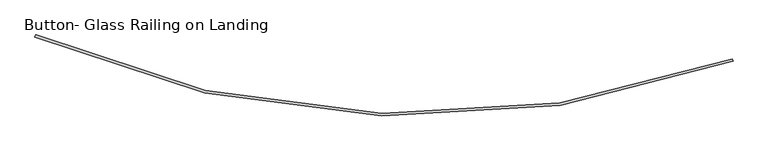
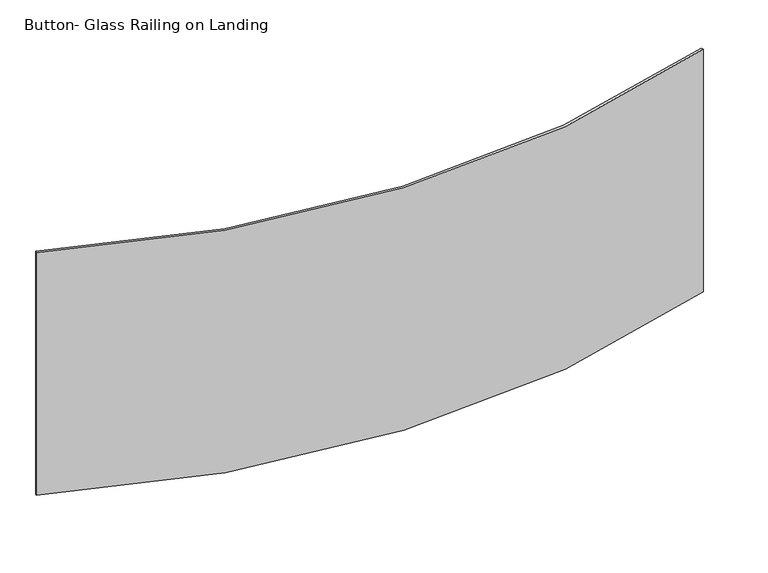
"""IFC4 building model written with IfcOpenShell, lengths in millimetres: railing geometry, Button- Glass Railing on Landing."""

from ifc_helpers import new_model, si_unit, point, frame, frame_2d, origin, place, context, project, spatial, polyline, circle_curve, trimmed, segment, composite_curve, outline, extrude, source, transform, mapped, element, save


def button_glass_railing_on_landing_518581e0(model_context):
    return source(origin(), model_context, "Body", "SweptSolid", [
        extrude(outline(composite_curve([segment(trimmed(circle_curve(frame_2d((2713.2680408, 4530.3178011)), 4676.5222694), [point((4296.5080718, 129.9528685))], [point((829.347807, 250.0485235))], False, "CARTESIAN"), True, "CONTINUOUS"), segment(polyline([(829.347807, 250.0485235), (834.4639565, 261.672422)]), True, "CONTINUOUS"), segment(trimmed(circle_curve(frame_2d((2713.2680408, 4530.3178011)), 4663.8222694), [point((834.4639565, 261.672422))], [point((4292.2084775, 141.9029099))], True, "CARTESIAN"), True, "CONTINUOUS"), segment(polyline([(4292.2084775, 141.9029099), (4296.5080718, 129.9528685)]), True, "CONTINUOUS")], self_intersect=False)), frame((0.0, 0.0, 2768.6), z_axis=(0.0, 0.0, 1.0), x_axis=(1.0, 0.0, 0.0)), (0.0, 0.0, 1.0), 1358.9),
    ])


if __name__ == "__main__":
    model = new_model("IFC4")
    model_context = context("Model", 3, world=origin())
    ifc_project = project(units=[si_unit("LENGTHUNIT", "METRE", prefix="MILLI")], contexts=[model_context])
    site = spatial("IfcSite", under=ifc_project)
    building = spatial("IfcBuilding", under=site)
    placement = place(None, origin())
    button_glass_railing_on_landing_shape = button_glass_railing_on_landing_518581e0(model_context)
    element("IfcRailing", 1, ObjectType="Button- Glass Railing on Landing", at=placement, inside=building, context=model_context, shape_type="MappedRepresentation", body=[
        mapped(button_glass_railing_on_landing_shape, transform((0.0, 0.0, 0.0), x_axis=(1.0, 0.0, 0.0), y_axis=(0.0, 1.0, 0.0), z_axis=(0.0, 0.0, 1.0))),
    ])
    save(model, "model.ifc")
